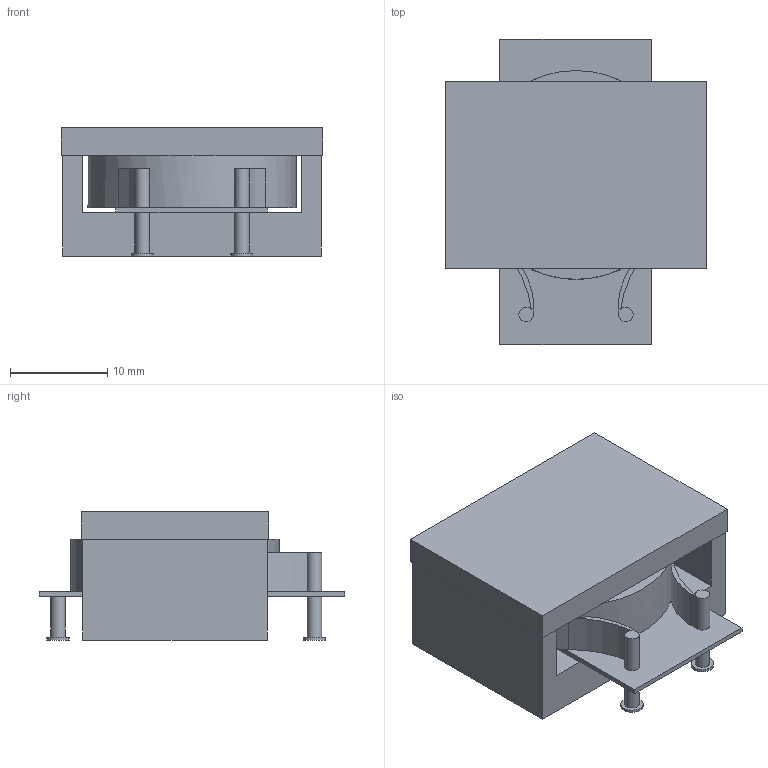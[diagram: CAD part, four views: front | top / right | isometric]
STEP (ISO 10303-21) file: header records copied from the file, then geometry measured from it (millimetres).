
FILE_DESCRIPTION(('FreeCAD Model'),'2;1');
FILE_NAME('Open CASCADE Shape Model','2025-04-12T20:28:40',('Author'),( ''),'Open CASCADE STEP processor 7.8','FreeCAD','Unknown');
FILE_SCHEMA(('AUTOMOTIVE_DESIGN { 1 0 10303 214 1 1 1 1 }'));
Length unit declared in the file: millimetre
Products named in the file (1): Pad007
Bounding box: 26.9 x 31.5 x 13.2 mm (x, y, z)
Volume: 6442.8 mm3; surface area: 3485.7 mm2
Topology: 1 solids, 1 shells, 49 faces, 117 edges, 74 vertices
Faces by surface type: plane 36, cylinder 13
Full cylindrical faces by diameter (mm): 1.5 x3, 2.3 x3, 21.499 x1
Entity records: 1682 total; most frequent: DIRECTION 255, CARTESIAN_POINT 241, ORIENTED_EDGE 234, EDGE_CURVE 117, AXIS2_PLACEMENT_3D 88, LINE 79, VECTOR 79, VERTEX_POINT 74
